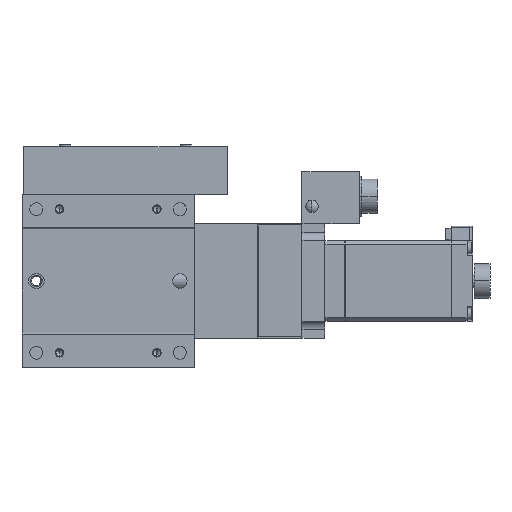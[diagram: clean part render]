
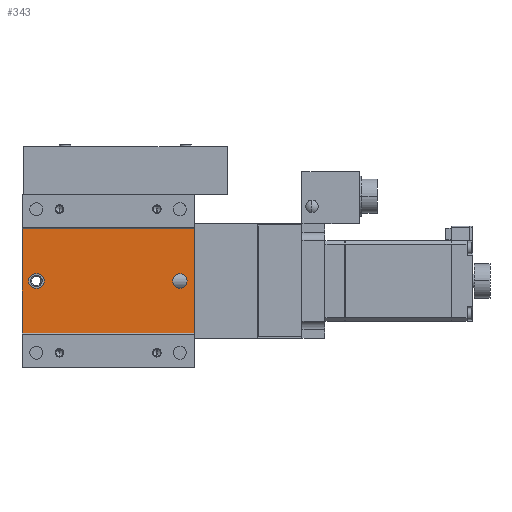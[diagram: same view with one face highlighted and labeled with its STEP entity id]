
A CAD part, front view. The second image highlights one B-rep face of the part: STEP entity #343.
In plain terms, the highlighted planar face has unit normal (0, -1, 0).
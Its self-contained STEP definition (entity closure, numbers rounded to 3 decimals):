
#343=ADVANCED_FACE('',(#1009,#1010,#1011),#1012,.F.);
#1009=FACE_BOUND('',#2374,.T.);
#1010=FACE_OUTER_BOUND('',#2375,.T.);
#1011=FACE_BOUND('',#2376,.T.);
#1012=PLANE('',#2377);
#2374=EDGE_LOOP('',(#3904,#3905,#3906,#3907));
#2375=EDGE_LOOP('',(#3908,#3909,#3910,#3911));
#2376=EDGE_LOOP('',(#3912,#3913,#3914));
#2377=AXIS2_PLACEMENT_3D('',#3915,#3916,#3917);
#3904=ORIENTED_EDGE('',*,*,#8956,.F.);
#3905=ORIENTED_EDGE('',*,*,#8957,.F.);
#3906=ORIENTED_EDGE('',*,*,#8958,.F.);
#3907=ORIENTED_EDGE('',*,*,#8959,.F.);
#3908=ORIENTED_EDGE('',*,*,#8941,.T.);
#3909=ORIENTED_EDGE('',*,*,#8960,.F.);
#3910=ORIENTED_EDGE('',*,*,#8961,.F.);
#3911=ORIENTED_EDGE('',*,*,#8962,.T.);
#3912=ORIENTED_EDGE('',*,*,#8846,.F.);
#3913=ORIENTED_EDGE('',*,*,#8845,.F.);
#3914=ORIENTED_EDGE('',*,*,#8963,.F.);
#3915=CARTESIAN_POINT('',(30.0,0.35,18.15));
#3916=DIRECTION('',(-0.0,1.0,0.));
#3917=DIRECTION('',(1.0,0.0,0.0));
#8845=EDGE_CURVE('',#10513,#10515,#10516,.F.);
#8846=EDGE_CURVE('',#10515,#10509,#10517,.F.);
#8941=EDGE_CURVE('',#10694,#10692,#10695,.T.);
#8956=EDGE_CURVE('',#10722,#10723,#10724,.F.);
#8957=EDGE_CURVE('',#10725,#10722,#10726,.T.);
#8958=EDGE_CURVE('',#10727,#10725,#10728,.F.);
#8959=EDGE_CURVE('',#10723,#10727,#10729,.T.);
#8960=EDGE_CURVE('',#10730,#10692,#10731,.T.);
#8961=EDGE_CURVE('',#10732,#10730,#10733,.T.);
#8962=EDGE_CURVE('',#10732,#10694,#10734,.T.);
#8963=EDGE_CURVE('',#10509,#10513,#10735,.F.);
#10509=VERTEX_POINT('',#13174);
#10513=VERTEX_POINT('',#13179);
#10515=VERTEX_POINT('',#13182);
#10516=CIRCLE('',#13183,2.5);
#10517=CIRCLE('',#13184,2.5);
#10692=VERTEX_POINT('',#13414);
#10694=VERTEX_POINT('',#13417);
#10695=LINE('',#13418,#13419);
#10722=VERTEX_POINT('',#13460);
#10723=VERTEX_POINT('',#13461);
#10724=CIRCLE('',#13462,2.5);
#10725=VERTEX_POINT('',#13463);
#10726=LINE('',#13464,#13465);
#10727=VERTEX_POINT('',#13466);
#10728=CIRCLE('',#13467,2.5);
#10729=LINE('',#13468,#13469);
#10730=VERTEX_POINT('',#13470);
#10731=LINE('',#13471,#13472);
#10732=VERTEX_POINT('',#13473);
#10733=LINE('',#13474,#13475);
#10734=LINE('',#13476,#13477);
#10735=CIRCLE('',#13478,2.5);
#13174=CARTESIAN_POINT('',(22.5,0.35,0.));
#13179=CARTESIAN_POINT('',(27.5,0.35,0.));
#13182=CARTESIAN_POINT('',(25.0,0.35,2.5));
#13183=AXIS2_PLACEMENT_3D('',#16972,#16973,#16974);
#13184=AXIS2_PLACEMENT_3D('',#16975,#16976,#16977);
#13414=CARTESIAN_POINT('',(-30.0,0.35,-18.15));
#13417=CARTESIAN_POINT('',(-30.0,0.35,18.15));
#13418=CARTESIAN_POINT('',(-30.0,0.35,18.15));
#13419=VECTOR('',#17148,1000.0);
#13460=CARTESIAN_POINT('',(-25.25,0.35,2.5));
#13461=CARTESIAN_POINT('',(-25.25,0.35,-2.5));
#13462=AXIS2_PLACEMENT_3D('',#17163,#17164,#17165);
#13463=CARTESIAN_POINT('',(-24.75,0.35,2.5));
#13464=CARTESIAN_POINT('',(30.0,0.35,2.5));
#13465=VECTOR('',#17166,1000.0);
#13466=CARTESIAN_POINT('',(-24.75,0.35,-2.5));
#13467=AXIS2_PLACEMENT_3D('',#17167,#17168,#17169);
#13468=CARTESIAN_POINT('',(30.0,0.35,-2.5));
#13469=VECTOR('',#17170,1000.0);
#13470=CARTESIAN_POINT('',(30.0,0.35,-18.15));
#13471=CARTESIAN_POINT('',(30.0,0.35,-18.15));
#13472=VECTOR('',#17171,1000.0);
#13473=CARTESIAN_POINT('',(30.0,0.35,18.15));
#13474=CARTESIAN_POINT('',(30.0,0.35,18.15));
#13475=VECTOR('',#17172,1000.0);
#13476=CARTESIAN_POINT('',(30.0,0.35,18.15));
#13477=VECTOR('',#17173,1000.0);
#13478=AXIS2_PLACEMENT_3D('',#17174,#17175,#17176);
#16972=CARTESIAN_POINT('',(25.0,0.35,0.0));
#16973=DIRECTION('',(0.0,1.0,0.));
#16974=DIRECTION('',(0.0,0.,1.0));
#16975=CARTESIAN_POINT('',(25.0,0.35,0.0));
#16976=DIRECTION('',(0.0,1.0,0.));
#16977=DIRECTION('',(0.0,0.,1.0));
#17148=DIRECTION('',(0.0,0.,-1.0));
#17163=CARTESIAN_POINT('',(-25.25,0.35,0.));
#17164=DIRECTION('',(0.0,1.0,0.));
#17165=DIRECTION('',(0.0,0.,1.0));
#17166=DIRECTION('',(-1.0,0.0,0.0));
#17167=CARTESIAN_POINT('',(-24.75,0.35,0.));
#17168=DIRECTION('',(0.0,1.0,0.));
#17169=DIRECTION('',(0.0,0.,1.0));
#17170=DIRECTION('',(1.0,0.0,0.0));
#17171=DIRECTION('',(-1.0,0.0,0.0));
#17172=DIRECTION('',(0.0,0.,-1.0));
#17173=DIRECTION('',(-1.0,0.0,0.0));
#17174=CARTESIAN_POINT('',(25.0,0.35,0.0));
#17175=DIRECTION('',(0.0,1.0,0.));
#17176=DIRECTION('',(0.0,0.,1.0));
